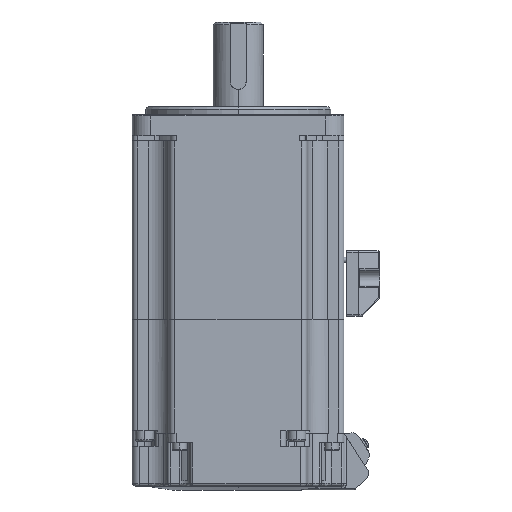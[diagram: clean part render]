
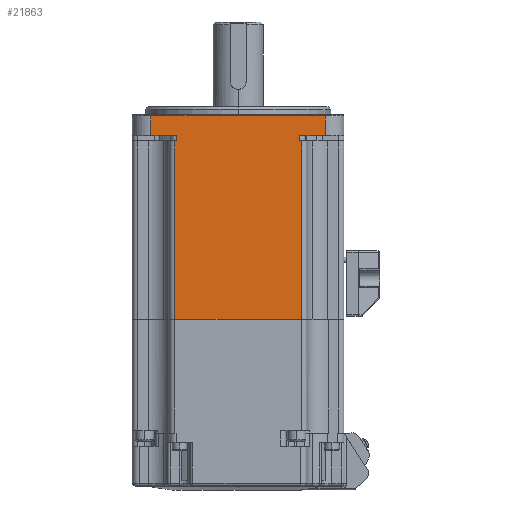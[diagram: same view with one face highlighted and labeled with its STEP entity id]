
A CAD part, left-side view. The second image highlights one B-rep face of the part: STEP entity #21863.
In plain terms, the highlighted planar face has unit normal (-1, 0, 0).
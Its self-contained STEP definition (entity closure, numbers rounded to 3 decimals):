
#988 = DIRECTION ( 'NONE',  ( 0., 0., -1. ) ) ;
#1433 = VECTOR ( 'NONE', #988, 1000. ) ;
#1703 = VERTEX_POINT ( 'NONE', #18809 ) ;
#1960 = VERTEX_POINT ( 'NONE', #11617 ) ;
#2248 = FACE_OUTER_BOUND ( 'NONE', #10425, .T. ) ;
#2279 = LINE ( 'NONE', #25372, #20712 ) ;
#2614 = CARTESIAN_POINT ( 'NONE',  ( -67.793, 32.684, 13.25 ) ) ;
#3370 = CARTESIAN_POINT ( 'NONE',  ( -67.793, 42.364, 20.75 ) ) ;
#3719 = VERTEX_POINT ( 'NONE', #15555 ) ;
#5478 = EDGE_CURVE ( 'NONE', #19549, #1960, #28141, .T. ) ;
#5778 = DIRECTION ( 'NONE',  ( 0., 0., 1. ) ) ;
#6136 = VECTOR ( 'NONE', #15095, 1000. ) ;
#6195 = CARTESIAN_POINT ( 'NONE',  ( -67.793, -30.636, 11.25 ) ) ;
#7101 = VERTEX_POINT ( 'NONE', #20009 ) ;
#7374 = LINE ( 'NONE', #6195, #9432 ) ;
#7537 = LINE ( 'NONE', #18303, #14409 ) ;
#7797 = ORIENTED_EDGE ( 'NONE', *, *, #5478, .F. ) ;
#8408 = EDGE_CURVE ( 'NONE', #17058, #15446, #7537, .T. ) ;
#8492 = DIRECTION ( 'NONE',  ( 0., 0., -1. ) ) ;
#8802 = VERTEX_POINT ( 'NONE', #2614 ) ;
#9432 = VECTOR ( 'NONE', #14739, 1000. ) ;
#9541 = LINE ( 'NONE', #20986, #25585 ) ;
#10425 = EDGE_LOOP ( 'NONE', ( #14044, #19456, #25140, #24816, #7797, #17523, #25813, #22044, #25399, #12408, #20724, #23612 ) ) ;
#10685 = CARTESIAN_POINT ( 'NONE',  ( -67.793, -30.636, 21.75 ) ) ;
#10887 = EDGE_CURVE ( 'NONE', #12888, #19549, #17350, .T. ) ;
#11533 = VECTOR ( 'NONE', #11688, 1000. ) ;
#11617 = CARTESIAN_POINT ( 'NONE',  ( -67.793, -23.636, 13.25 ) ) ;
#11664 = CARTESIAN_POINT ( 'NONE',  ( -67.793, 33.364, -56.25 ) ) ;
#11688 = DIRECTION ( 'NONE',  ( 0., -1., 0. ) ) ;
#11743 = EDGE_CURVE ( 'NONE', #1703, #12235, #12370, .T. ) ;
#12051 = CARTESIAN_POINT ( 'NONE',  ( -67.793, -23.636, 20.75 ) ) ;
#12235 = VERTEX_POINT ( 'NONE', #13401 ) ;
#12370 = LINE ( 'NONE', #20842, #1433 ) ;
#12408 = ORIENTED_EDGE ( 'NONE', *, *, #16008, .F. ) ;
#12888 = VERTEX_POINT ( 'NONE', #3370 ) ;
#12985 = CARTESIAN_POINT ( 'NONE',  ( -67.793, 9.364, -56.25 ) ) ;
#13401 = CARTESIAN_POINT ( 'NONE',  ( -67.793, -13.956, 11.25 ) ) ;
#13627 = EDGE_CURVE ( 'NONE', #1960, #1703, #25940, .T. ) ;
#14007 = CARTESIAN_POINT ( 'NONE',  ( -67.793, -30.636, 20.75 ) ) ;
#14024 = EDGE_CURVE ( 'NONE', #3719, #8802, #9541, .T. ) ;
#14044 = ORIENTED_EDGE ( 'NONE', *, *, #21742, .F. ) ;
#14116 = DIRECTION ( 'NONE',  ( 0., 0., 1. ) ) ;
#14175 = DIRECTION ( 'NONE',  ( 0., 1., 0. ) ) ;
#14409 = VECTOR ( 'NONE', #14116, 1000. ) ;
#14739 = DIRECTION ( 'NONE',  ( 0., -1., 0. ) ) ;
#15095 = DIRECTION ( 'NONE',  ( 0., 1., 0. ) ) ;
#15446 = VERTEX_POINT ( 'NONE', #19349 ) ;
#15555 = CARTESIAN_POINT ( 'NONE',  ( -67.793, 32.684, 11.25 ) ) ;
#15906 = LINE ( 'NONE', #18839, #26795 ) ;
#16008 = EDGE_CURVE ( 'NONE', #15446, #3719, #7374, .T. ) ;
#16085 = EDGE_CURVE ( 'NONE', #27703, #12888, #19386, .T. ) ;
#16911 = EDGE_CURVE ( 'NONE', #8802, #27703, #27825, .T. ) ;
#17058 = VERTEX_POINT ( 'NONE', #11664 ) ;
#17278 = DIRECTION ( 'NONE',  ( 0., 1., 0. ) ) ;
#17350 = LINE ( 'NONE', #14007, #11533 ) ;
#17523 = ORIENTED_EDGE ( 'NONE', *, *, #10887, .F. ) ;
#17609 = DIRECTION ( 'NONE',  ( 0., 1., 0. ) ) ;
#18241 = VECTOR ( 'NONE', #25074, 1000. ) ;
#18303 = CARTESIAN_POINT ( 'NONE',  ( -67.793, 33.364, 21.75 ) ) ;
#18777 = EDGE_CURVE ( 'NONE', #20632, #17058, #20233, .T. ) ;
#18809 = CARTESIAN_POINT ( 'NONE',  ( -67.793, -13.956, 13.25 ) ) ;
#18839 = CARTESIAN_POINT ( 'NONE',  ( -67.793, -23.636, 11.25 ) ) ;
#18978 = CARTESIAN_POINT ( 'NONE',  ( -67.793, -14.636, -56.25 ) ) ;
#19349 = CARTESIAN_POINT ( 'NONE',  ( -67.793, 33.364, 11.25 ) ) ;
#19386 = LINE ( 'NONE', #27861, #24479 ) ;
#19456 = ORIENTED_EDGE ( 'NONE', *, *, #23109, .T. ) ;
#19549 = VERTEX_POINT ( 'NONE', #12051 ) ;
#19694 = AXIS2_PLACEMENT_3D ( 'NONE', #10685, #21592, #8492 ) ;
#20009 = CARTESIAN_POINT ( 'NONE',  ( -67.793, -14.636, 11.25 ) ) ;
#20208 = VECTOR ( 'NONE', #17278, 1000. ) ;
#20233 = LINE ( 'NONE', #12985, #20208 ) ;
#20632 = VERTEX_POINT ( 'NONE', #18978 ) ;
#20712 = VECTOR ( 'NONE', #21016, 1000. ) ;
#20724 = ORIENTED_EDGE ( 'NONE', *, *, #8408, .F. ) ;
#20842 = CARTESIAN_POINT ( 'NONE',  ( -67.793, -13.956, 21.75 ) ) ;
#20986 = CARTESIAN_POINT ( 'NONE',  ( -67.793, 32.684, 21.75 ) ) ;
#21016 = DIRECTION ( 'NONE',  ( 0., 0., -1. ) ) ;
#21297 = PLANE ( 'NONE',  #19694 ) ;
#21592 = DIRECTION ( 'NONE',  ( 1., 0., 0. ) ) ;
#21742 = EDGE_CURVE ( 'NONE', #7101, #20632, #2279, .T. ) ;
#21863 = ADVANCED_FACE ( 'NONE', ( #2248 ), #21297, .F. ) ;
#22044 = ORIENTED_EDGE ( 'NONE', *, *, #16911, .F. ) ;
#22279 = CARTESIAN_POINT ( 'NONE',  ( -67.793, 42.364, 13.25 ) ) ;
#22989 = CARTESIAN_POINT ( 'NONE',  ( -67.793, -23.636, 21.75 ) ) ;
#23109 = EDGE_CURVE ( 'NONE', #7101, #12235, #15906, .T. ) ;
#23612 = ORIENTED_EDGE ( 'NONE', *, *, #18777, .F. ) ;
#23740 = CARTESIAN_POINT ( 'NONE',  ( -67.793, -30.636, 13.25 ) ) ;
#23757 = DIRECTION ( 'NONE',  ( 0., 0., 1. ) ) ;
#24479 = VECTOR ( 'NONE', #23757, 1000. ) ;
#24816 = ORIENTED_EDGE ( 'NONE', *, *, #13627, .F. ) ;
#25074 = DIRECTION ( 'NONE',  ( 0., 0., -1. ) ) ;
#25140 = ORIENTED_EDGE ( 'NONE', *, *, #11743, .F. ) ;
#25372 = CARTESIAN_POINT ( 'NONE',  ( -67.793, -14.636, 21.75 ) ) ;
#25399 = ORIENTED_EDGE ( 'NONE', *, *, #14024, .F. ) ;
#25585 = VECTOR ( 'NONE', #5778, 1000. ) ;
#25779 = VECTOR ( 'NONE', #17609, 1000. ) ;
#25813 = ORIENTED_EDGE ( 'NONE', *, *, #16085, .F. ) ;
#25940 = LINE ( 'NONE', #23740, #6136 ) ;
#26275 = CARTESIAN_POINT ( 'NONE',  ( -67.793, -30.636, 13.25 ) ) ;
#26795 = VECTOR ( 'NONE', #14175, 1000. ) ;
#27703 = VERTEX_POINT ( 'NONE', #22279 ) ;
#27825 = LINE ( 'NONE', #26275, #25779 ) ;
#27861 = CARTESIAN_POINT ( 'NONE',  ( -67.793, 42.364, 21.75 ) ) ;
#28141 = LINE ( 'NONE', #22989, #18241 ) ;
